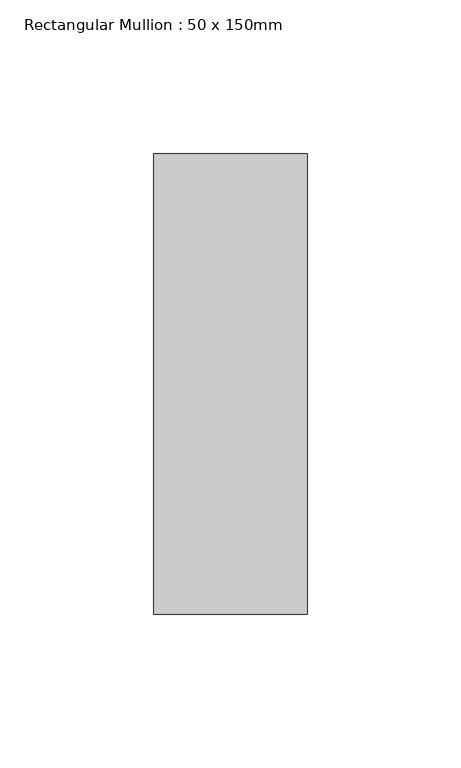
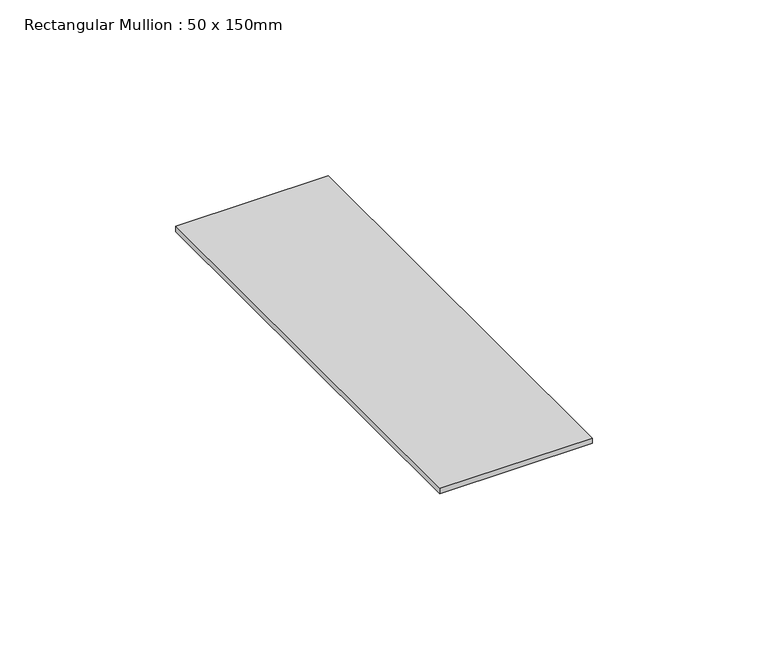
"""IFC4 building model written with IfcOpenShell, lengths in millimetres: member geometry, Rectangular Mullion : 50 x 150mm."""

from ifc_helpers import new_model, si_unit, frame, origin, place, context, project, spatial, polyline, outline, extrude, source, transform, mapped, element, save


def rectangular_mullion_50_x_150mm_a7870356(model_context):
    return source(origin(), model_context, "Body", "SweptSolid", [
        extrude(outline(polyline([(25.0, 75.0), (25.0, -75.0), (-25.0, -75.0), (-25.0, 75.0), (25.0, 75.0)])), frame((0.0, 0.0, -1.8820664), z_axis=(0.0, 0.0, 1.0), x_axis=(1.0, 0.0, 0.0)), (0.0, 0.0, 1.0), 1.8820664),
    ])


if __name__ == "__main__":
    model = new_model("IFC4")
    model_context = context("Model", 3, world=origin())
    ifc_project = project(units=[si_unit("LENGTHUNIT", "METRE", prefix="MILLI")], contexts=[model_context])
    site = spatial("IfcSite", under=ifc_project)
    building = spatial("IfcBuilding", under=site)
    placement = place(None, origin())
    rectangular_mullion_50_x_150mm_shape = rectangular_mullion_50_x_150mm_a7870356(model_context)
    element("IfcMember", 1, ObjectType="Rectangular Mullion : 50 x 150mm", at=placement, inside=building, context=model_context, shape_type="MappedRepresentation", body=[
        mapped(rectangular_mullion_50_x_150mm_shape, transform((0.0, 0.0, 0.0), x_axis=(1.0, 0.0, 0.0), y_axis=(0.0, 1.0, 0.0), z_axis=(0.0, 0.0, 1.0))),
    ])
    save(model, "model.ifc")
